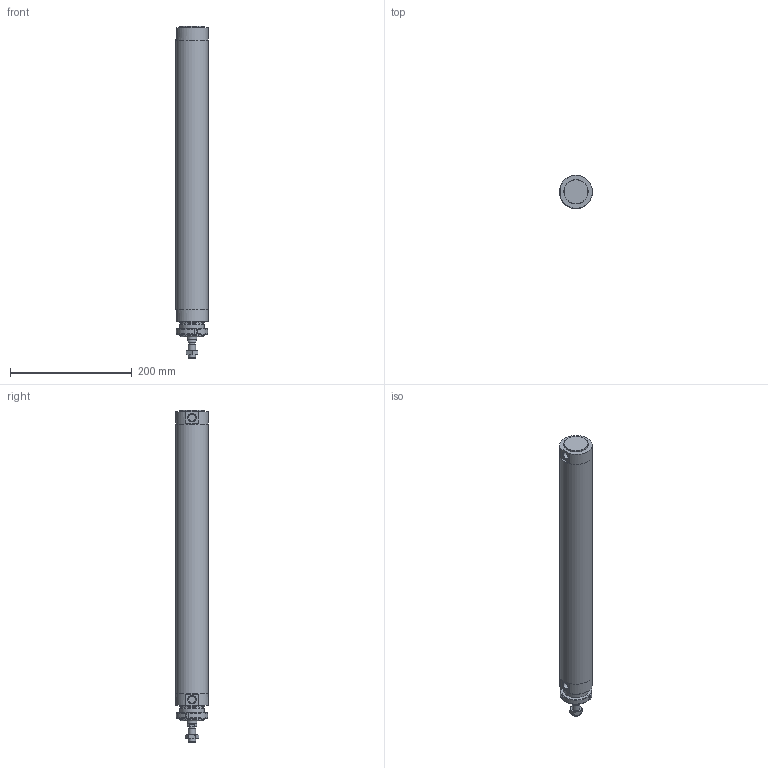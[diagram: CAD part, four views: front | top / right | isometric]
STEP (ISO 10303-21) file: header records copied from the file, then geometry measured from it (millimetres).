
FILE_DESCRIPTION(/* description */ (''),/* implementation_level */ '2;1');
FILE_NAME(/* name */ 'I:\Area Tecnica\Documenti\A-Manieri\_Inventor\12X\12X#D_###_####_#_#\12XAD_050_0400_#_#.stp',/* time_stamp */ '2015-04-29T16:44:39+02:00',/* author */ ('maniean1'),/* organization */ ('Pneumax S.p.A.'),/* preprocessor_version */ 'ST-DEVELOPER v15.2',/* originating_system */ 'Autodesk Inventor 2014',/* authorisation */ '');
FILE_SCHEMA (('AUTOMOTIVE_DESIGN { 1 0 10303 214 3 1 1 }'));
Length unit declared in the file: millimetre
Products named in the file (7): C1250_619-0400; 12X50_604; S12X50_0400; 12X_50_11; 12X50_611; G12X_050_05; 12XAD_050_0400_#_#
Bounding box: 54 x 54 x 545 mm (x, y, z)
Volume: 446584.4 mm3; surface area: 206328.2 mm2
Topology: 6 solids, 6 shells, 81 faces, 175 edges, 112 vertices
Faces by surface type: plane 41, cylinder 21, cone 19
Full cylindrical faces by diameter (mm): 10.2 x1, 11.4 x2, 12 x2, 14 x1, 15.6 x1, 16 x1, 38.2 x1, 40 x4, 50 x2, 54 x3
Entity records: 2155 total; most frequent: CARTESIAN_POINT 400, DIRECTION 364, ORIENTED_EDGE 284, AXIS2_PLACEMENT_3D 156, EDGE_CURVE 142, EDGE_LOOP 124, VERTEX_POINT 108, ADVANCED_FACE 81
